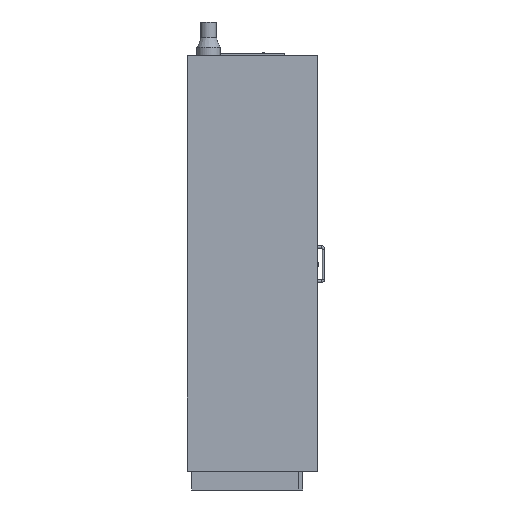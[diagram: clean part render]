
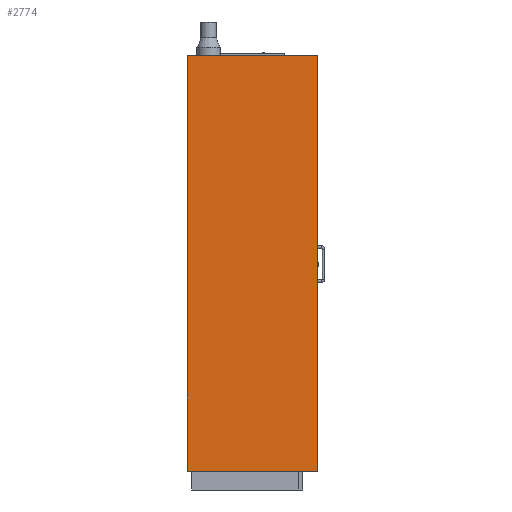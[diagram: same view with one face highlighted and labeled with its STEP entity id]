
A CAD part, left-side view. The second image highlights one B-rep face of the part: STEP entity #2774.
In plain terms, the highlighted planar face has unit normal (-1, 0, 0).
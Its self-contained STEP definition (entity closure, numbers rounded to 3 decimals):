
#66=LINE('',#3595,#266);
#74=LINE('',#3611,#274);
#167=LINE('',#3889,#367);
#175=LINE('',#3906,#375);
#198=LINE('',#3955,#398);
#201=LINE('',#3959,#401);
#207=LINE('',#3971,#407);
#208=LINE('',#3973,#408);
#266=VECTOR('',#3031,1000.);
#274=VECTOR('',#3039,1000.);
#367=VECTOR('',#3300,1000.);
#375=VECTOR('',#3310,1000.);
#398=VECTOR('',#3361,1000.);
#401=VECTOR('',#3366,1000.);
#407=VECTOR('',#3384,1000.);
#408=VECTOR('',#3387,1000.);
#797=ORIENTED_EDGE('',*,*,#1162,.T.);
#798=ORIENTED_EDGE('',*,*,#988,.F.);
#799=ORIENTED_EDGE('',*,*,#1163,.F.);
#800=ORIENTED_EDGE('',*,*,#1130,.F.);
#801=ORIENTED_EDGE('',*,*,#1153,.F.);
#802=ORIENTED_EDGE('',*,*,#996,.F.);
#803=ORIENTED_EDGE('',*,*,#1156,.F.);
#804=ORIENTED_EDGE('',*,*,#1122,.T.);
#988=EDGE_CURVE('',#1245,#1246,#66,.T.);
#996=EDGE_CURVE('',#1253,#1254,#74,.T.);
#1122=EDGE_CURVE('',#1355,#1356,#167,.T.);
#1130=EDGE_CURVE('',#1363,#1364,#175,.T.);
#1153=EDGE_CURVE('',#1254,#1363,#198,.T.);
#1156=EDGE_CURVE('',#1355,#1253,#201,.T.);
#1162=EDGE_CURVE('',#1356,#1246,#207,.T.);
#1163=EDGE_CURVE('',#1364,#1245,#208,.T.);
#1245=VERTEX_POINT('',#3594);
#1246=VERTEX_POINT('',#3596);
#1253=VERTEX_POINT('',#3610);
#1254=VERTEX_POINT('',#3612);
#1355=VERTEX_POINT('',#3890);
#1356=VERTEX_POINT('',#3891);
#1363=VERTEX_POINT('',#3907);
#1364=VERTEX_POINT('',#3908);
#1578=EDGE_LOOP('',(#797,#798,#799,#800,#801,#802,#803,#804));
#1740=FACE_BOUND('',#1578,.T.);
#1843=PLANE('',#2938);
#2774=ADVANCED_FACE('',(#1740),#1843,.F.);
#2938=AXIS2_PLACEMENT_3D('',#3972,#3385,#3386);
#3031=DIRECTION('',(0.,-1.,0.));
#3039=DIRECTION('',(0.,-1.,0.));
#3300=DIRECTION('',(0.,1.,0.));
#3310=DIRECTION('',(0.,1.,0.));
#3361=DIRECTION('',(0.,0.,-1.));
#3366=DIRECTION('',(0.,0.,1.));
#3384=DIRECTION('',(0.,0.,1.));
#3385=DIRECTION('',(1.,0.,0.));
#3386=DIRECTION('',(0.,0.,-1.));
#3387=DIRECTION('',(0.,0.,1.));
#3594=CARTESIAN_POINT('',(150.,612.,1956.));
#3595=CARTESIAN_POINT('',(150.,612.,1956.));
#3596=CARTESIAN_POINT('',(150.,583.,1956.));
#3610=CARTESIAN_POINT('',(150.,564.,1956.));
#3611=CARTESIAN_POINT('',(150.,612.,1956.));
#3612=CARTESIAN_POINT('',(150.,0.,1956.));
#3889=CARTESIAN_POINT('',(150.,564.,1954.5));
#3890=CARTESIAN_POINT('',(150.,564.,1954.5));
#3891=CARTESIAN_POINT('',(150.,583.,1954.5));
#3906=CARTESIAN_POINT('',(150.,0.,0.));
#3907=CARTESIAN_POINT('',(150.,0.,0.));
#3908=CARTESIAN_POINT('',(150.,612.,0.));
#3955=CARTESIAN_POINT('',(150.,0.,1956.));
#3959=CARTESIAN_POINT('',(150.,564.,1954.5));
#3971=CARTESIAN_POINT('',(150.,583.,1954.5));
#3972=CARTESIAN_POINT('',(150.,0.,0.));
#3973=CARTESIAN_POINT('',(150.,612.,0.));
